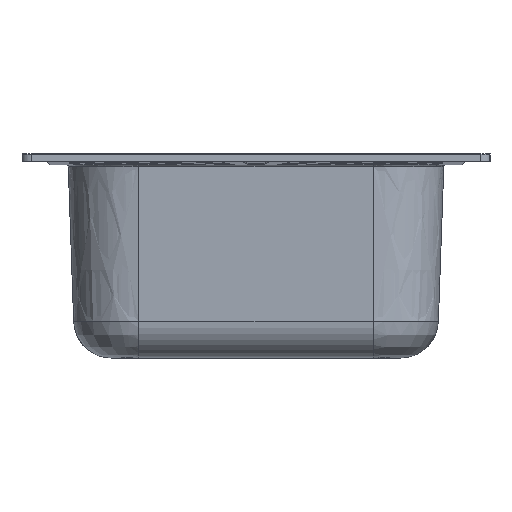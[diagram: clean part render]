
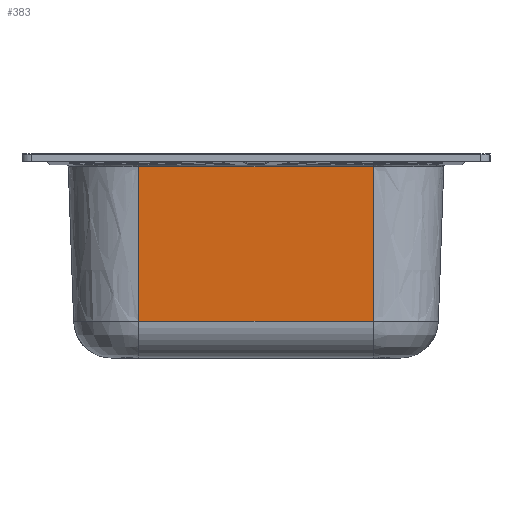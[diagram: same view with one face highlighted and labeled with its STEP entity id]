
A CAD part, left-side view. The second image highlights one B-rep face of the part: STEP entity #383.
In plain terms, the highlighted planar face has unit normal (-0.999, 0, -0.035).
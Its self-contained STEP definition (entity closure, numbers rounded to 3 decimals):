
#383=ADVANCED_FACE('',(#1013),#1014,.T.);
#1013=FACE_OUTER_BOUND('',#2048,.T.);
#1014=PLANE('',#2049);
#2048=EDGE_LOOP('',(#7831,#7832,#7833,#7834));
#2049=AXIS2_PLACEMENT_3D('',#7835,#7836,#7837);
#7831=ORIENTED_EDGE('',*,*,#9056,.T.);
#7832=ORIENTED_EDGE('',*,*,#9057,.T.);
#7833=ORIENTED_EDGE('',*,*,#9032,.T.);
#7834=ORIENTED_EDGE('',*,*,#9055,.F.);
#7835=CARTESIAN_POINT('',(52.913,-0.001,-94.221));
#7836=DIRECTION('',(-0.999,0.0,-0.035));
#7837=DIRECTION('',(-0.035,0.0,0.999));
#9032=EDGE_CURVE('',#10376,#10371,#10379,.T.);
#9055=EDGE_CURVE('',#10413,#10371,#10415,.T.);
#9056=EDGE_CURVE('',#10413,#10416,#10417,.T.);
#9057=EDGE_CURVE('',#10416,#10376,#10418,.T.);
#10371=VERTEX_POINT('',#12710);
#10376=VERTEX_POINT('',#12748);
#10379=LINE('',#12752,#12753);
#10413=VERTEX_POINT('',#12855);
#10415=B_SPLINE_CURVE_WITH_KNOTS('',1,(#12895,#12896),.UNSPECIFIED.,.F.,.F.,(2,2),(38.628,204.015),.UNSPECIFIED.);
#10416=VERTEX_POINT('',#12897);
#10417=LINE('',#12898,#12899);
#10418=LINE('',#12900,#12901);
#12710=CARTESIAN_POINT('',(49.397,125.089,6.47));
#12748=CARTESIAN_POINT('',(49.397,-125.091,6.47));
#12752=CARTESIAN_POINT('',(49.397,-0.001,6.47));
#12753=VECTOR('',#15068,1.0);
#12855=CARTESIAN_POINT('',(55.169,125.089,-158.817));
#12895=CARTESIAN_POINT('',(55.169,125.089,-158.817));
#12896=CARTESIAN_POINT('',(49.397,125.089,6.47));
#12897=CARTESIAN_POINT('',(55.169,-125.091,-158.817));
#12898=CARTESIAN_POINT('',(55.169,-0.001,-158.817));
#12899=VECTOR('',#15086,1.0);
#12900=CARTESIAN_POINT('',(52.283,-125.091,-76.174));
#12901=VECTOR('',#15087,1.0);
#15068=DIRECTION('',(0.0,1.0,0.0));
#15086=DIRECTION('',(0.0,-1.0,0.0));
#15087=DIRECTION('',(-0.035,0.0,0.999));
